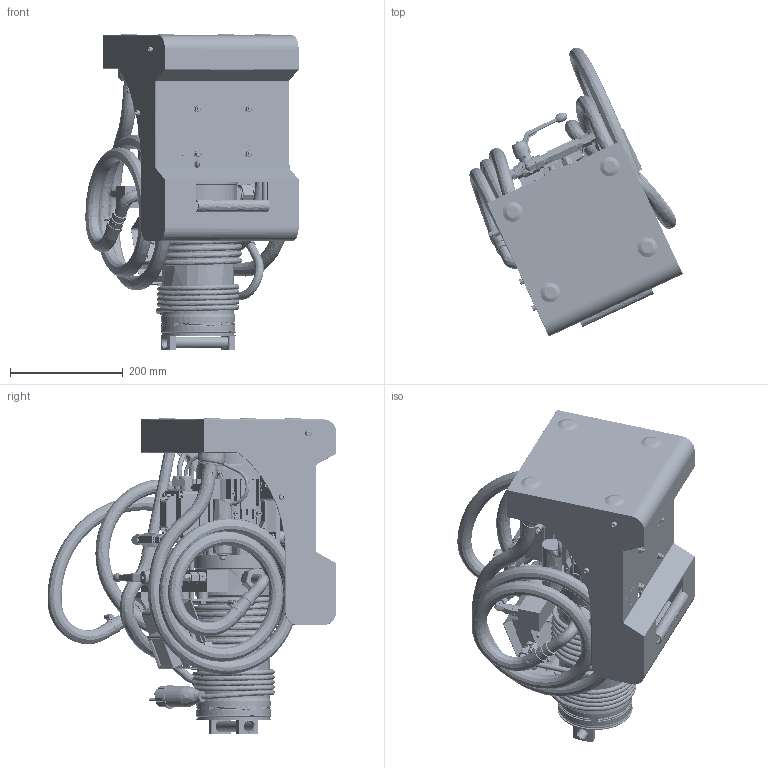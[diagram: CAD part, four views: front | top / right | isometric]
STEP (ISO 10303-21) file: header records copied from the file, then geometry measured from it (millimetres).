
FILE_DESCRIPTION((''),'2;1');
FILE_NAME('U:\Users\r.stiegele\FAPC016-1105.stp', '2014-02-13T07:11:32',('User'),('SDRC'),'I-DEAS Master Series 9','UNIX', 'Yes');
FILE_SCHEMA(('AUTOMOTIVE_DESIGN { 1 0 10303 214 1 1 1 1 }'));
Length unit declared in the file: millimetre
Products named in the file (1): FAPC016-1105
Bounding box: 378.24 x 512.48 x 561.75 mm (x, y, z)
Volume: 11682029.1 mm3; surface area: 1885711.7 mm2
Topology: 2 solids, 27 shells, 5105 faces, 12826 edges, 8082 vertices
Faces by surface type: bspline 5105
Entity records: 179318 total; most frequent: CARTESIAN_POINT 106752, ORIENTED_EDGE 25492, EDGE_CURVE 12746, VERTEX_POINT 8086, EDGE_LOOP 5616, FACE_OUTER_BOUND 5105, ADVANCED_FACE 5105, B_SPLINE_CURVE_WITH_KNOTS 4514
